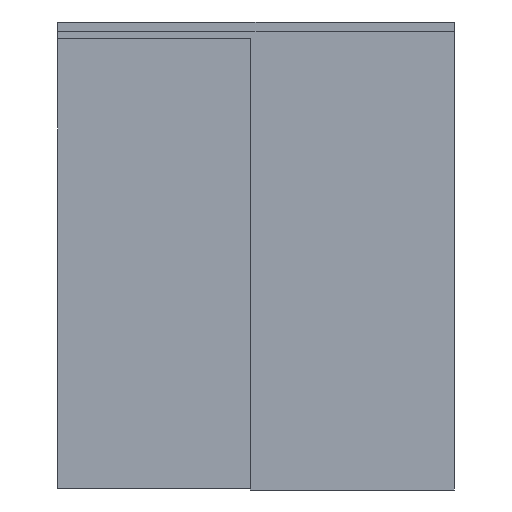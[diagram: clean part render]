
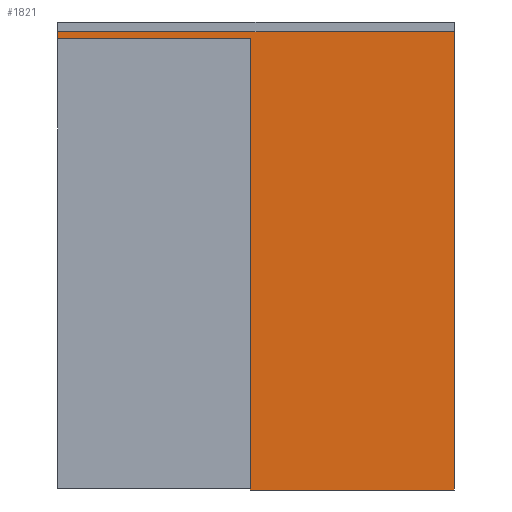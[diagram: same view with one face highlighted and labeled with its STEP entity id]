
A CAD part, front view. The second image highlights one B-rep face of the part: STEP entity #1821.
In plain terms, the highlighted planar face has unit normal (0, -1, 0).
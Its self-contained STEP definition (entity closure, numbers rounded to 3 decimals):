
#1821=ADVANCED_FACE('',(#3683),#3684,.F.);
#3683=FACE_OUTER_BOUND('',#5554,.T.);
#3684=PLANE('',#5555);
#5554=EDGE_LOOP('',(#10419,#10420,#10421,#10422,#10423,#10424));
#5555=AXIS2_PLACEMENT_3D('',#10425,#10426,#10427);
#10419=ORIENTED_EDGE('',*,*,#13024,.T.);
#10420=ORIENTED_EDGE('',*,*,#13014,.F.);
#10421=ORIENTED_EDGE('',*,*,#13018,.F.);
#10422=ORIENTED_EDGE('',*,*,#13022,.T.);
#10423=ORIENTED_EDGE('',*,*,#13025,.F.);
#10424=ORIENTED_EDGE('',*,*,#13026,.F.);
#10425=CARTESIAN_POINT('',(0.0,-44.,2333.0));
#10426=DIRECTION('',(0.0,1.0,-0.0));
#10427=DIRECTION('',(0.0,0.0,1.0));
#13014=EDGE_CURVE('',#15965,#15960,#15967,.T.);
#13018=EDGE_CURVE('',#15971,#15965,#15973,.T.);
#13022=EDGE_CURVE('',#15971,#15977,#15979,.T.);
#13024=EDGE_CURVE('',#15981,#15960,#15982,.T.);
#13025=EDGE_CURVE('',#15983,#15977,#15984,.T.);
#13026=EDGE_CURVE('',#15981,#15983,#15985,.T.);
#15960=VERTEX_POINT('',#20020);
#15965=VERTEX_POINT('',#20027);
#15967=LINE('',#20030,#20031);
#15971=VERTEX_POINT('',#20036);
#15973=LINE('',#20039,#20040);
#15977=VERTEX_POINT('',#20045);
#15979=LINE('',#20048,#20049);
#15981=VERTEX_POINT('',#20051);
#15982=LINE('',#20052,#20053);
#15983=VERTEX_POINT('',#20054);
#15984=LINE('',#20055,#20056);
#15985=LINE('',#20057,#20058);
#20020=CARTESIAN_POINT('',(995.0,-44.,2335.0));
#20027=CARTESIAN_POINT('',(995.0,-44.,0.0));
#20030=CARTESIAN_POINT('',(995.0,-44.,7.0));
#20031=VECTOR('',#22826,1.0);
#20036=CARTESIAN_POINT('',(2050.0,-44.,0.0));
#20039=CARTESIAN_POINT('',(1327.5,-44.,0.0));
#20040=VECTOR('',#22829,1.0);
#20045=CARTESIAN_POINT('',(2050.0,-44.,2368.0));
#20048=CARTESIAN_POINT('',(2050.0,-44.,7.0));
#20049=VECTOR('',#22832,1.0);
#20051=CARTESIAN_POINT('',(0.0,-44.,2335.0));
#20052=CARTESIAN_POINT('',(0.0,-44.,2335.0));
#20053=VECTOR('',#22833,1.0);
#20054=CARTESIAN_POINT('',(0.0,-44.,2368.0));
#20055=CARTESIAN_POINT('',(1270.0,-44.,2368.0));
#20056=VECTOR('',#22834,1.0);
#20057=CARTESIAN_POINT('',(0.0,-44.,2301.0));
#20058=VECTOR('',#22835,1.0);
#22826=DIRECTION('',(0.0,0.0,1.0));
#22829=DIRECTION('',(-1.0,0.0,0.0));
#22832=DIRECTION('',(0.0,0.0,1.0));
#22833=DIRECTION('',(1.0,0.0,0.0));
#22834=DIRECTION('',(1.0,0.0,0.0));
#22835=DIRECTION('',(0.0,0.0,1.0));
